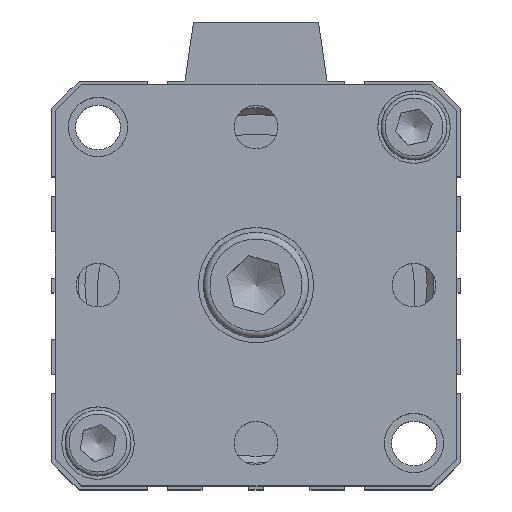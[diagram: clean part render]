
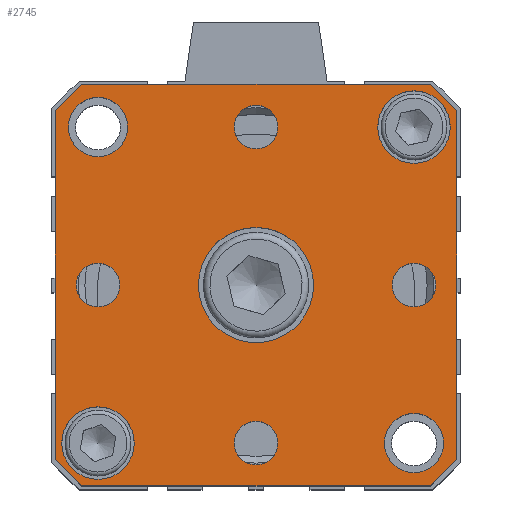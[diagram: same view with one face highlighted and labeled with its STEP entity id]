
A CAD part, top view. The second image highlights one B-rep face of the part: STEP entity #2745.
In plain terms, the highlighted planar face has unit normal (0, 0, 1).
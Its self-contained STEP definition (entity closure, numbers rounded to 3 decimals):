
#365=CARTESIAN_POINT('',(-37.557,28.294,71.6));
#366=VERTEX_POINT('',#365);
#367=CARTESIAN_POINT('',(-33.557,32.294,71.6));
#368=VERTEX_POINT('',#367);
#369=CARTESIAN_POINT('',(-37.557,28.294,71.6));
#370=DIRECTION('',(0.707,0.707,0.0));
#371=VECTOR('',#370,5.657);
#372=LINE('',#369,#371);
#373=EDGE_CURVE('',#366,#368,#372,.T.);
#417=CARTESIAN_POINT('',(19.443,32.294,71.6));
#418=VERTEX_POINT('',#417);
#419=CARTESIAN_POINT('',(-33.557,32.294,71.6));
#420=DIRECTION('',(1.0,0.0,0.0));
#421=VECTOR('',#420,53.);
#422=LINE('',#419,#421);
#423=EDGE_CURVE('',#368,#418,#422,.T.);
#440=CARTESIAN_POINT('',(23.443,28.294,71.6));
#441=VERTEX_POINT('',#440);
#442=CARTESIAN_POINT('',(19.443,32.294,71.6));
#443=DIRECTION('',(0.707,-0.707,0.0));
#444=VECTOR('',#443,5.657);
#445=LINE('',#442,#444);
#446=EDGE_CURVE('',#418,#441,#445,.T.);
#464=CARTESIAN_POINT('',(23.443,-24.706,71.6));
#465=VERTEX_POINT('',#464);
#466=CARTESIAN_POINT('',(19.443,-28.706,71.6));
#467=VERTEX_POINT('',#466);
#468=CARTESIAN_POINT('',(23.443,-24.706,71.6));
#469=DIRECTION('',(-0.707,-0.707,0.0));
#470=VECTOR('',#469,5.657);
#471=LINE('',#468,#470);
#472=EDGE_CURVE('',#465,#467,#471,.T.);
#496=CARTESIAN_POINT('',(-33.557,-28.706,71.6));
#497=VERTEX_POINT('',#496);
#498=CARTESIAN_POINT('',(19.443,-28.706,71.6));
#499=DIRECTION('',(-1.0,0.0,0.0));
#500=VECTOR('',#499,53.);
#501=LINE('',#498,#500);
#502=EDGE_CURVE('',#467,#497,#501,.T.);
#519=CARTESIAN_POINT('',(-37.557,-24.706,71.6));
#520=VERTEX_POINT('',#519);
#521=CARTESIAN_POINT('',(-33.557,-28.706,71.6));
#522=DIRECTION('',(-0.707,0.707,0.0));
#523=VECTOR('',#522,5.657);
#524=LINE('',#521,#523);
#525=EDGE_CURVE('',#497,#520,#524,.T.);
#592=CARTESIAN_POINT('',(1.693,1.794,71.6));
#593=VERTEX_POINT('',#592);
#594=CARTESIAN_POINT('',(-7.057,1.794,71.6));
#595=DIRECTION('',(0.0,0.0,-1.0));
#596=DIRECTION('',(1.0,0.0,0.0));
#597=AXIS2_PLACEMENT_3D('',#594,#595,#596);
#598=CIRCLE('',#597,8.75);
#599=EDGE_CURVE('',#593,#593,#598,.T.);
#711=CARTESIAN_POINT('',(-25.557,-22.206,71.6));
#712=VERTEX_POINT('',#711);
#713=CARTESIAN_POINT('',(-31.057,-22.206,71.6));
#714=DIRECTION('',(0.0,0.0,-1.0));
#715=DIRECTION('',(1.0,0.0,0.0));
#716=AXIS2_PLACEMENT_3D('',#713,#714,#715);
#717=CIRCLE('',#716,5.5);
#718=EDGE_CURVE('',#712,#712,#717,.T.);
#813=CARTESIAN_POINT('',(22.443,25.794,71.6));
#814=VERTEX_POINT('',#813);
#815=CARTESIAN_POINT('',(16.943,25.794,71.6));
#816=DIRECTION('',(0.0,0.0,-1.0));
#817=DIRECTION('',(1.0,0.0,0.0));
#818=AXIS2_PLACEMENT_3D('',#815,#816,#817);
#819=CIRCLE('',#818,5.5);
#820=EDGE_CURVE('',#814,#814,#819,.T.);
#890=CARTESIAN_POINT('',(20.266,1.794,71.6));
#891=VERTEX_POINT('',#890);
#892=CARTESIAN_POINT('',(16.943,1.794,71.6));
#893=DIRECTION('',(0.0,0.0,-1.0));
#894=DIRECTION('',(1.0,0.0,0.0));
#895=AXIS2_PLACEMENT_3D('',#892,#893,#894);
#896=CIRCLE('',#895,3.324);
#897=EDGE_CURVE('',#891,#891,#896,.T.);
#931=CARTESIAN_POINT('',(-3.734,-22.206,71.6));
#932=VERTEX_POINT('',#931);
#933=CARTESIAN_POINT('',(-7.057,-22.206,71.6));
#934=DIRECTION('',(0.0,0.0,-1.0));
#935=DIRECTION('',(1.0,0.0,0.0));
#936=AXIS2_PLACEMENT_3D('',#933,#934,#935);
#937=CIRCLE('',#936,3.324);
#938=EDGE_CURVE('',#932,#932,#937,.T.);
#972=CARTESIAN_POINT('',(-27.734,1.794,71.6));
#973=VERTEX_POINT('',#972);
#974=CARTESIAN_POINT('',(-31.057,1.794,71.6));
#975=DIRECTION('',(0.0,0.0,-1.0));
#976=DIRECTION('',(1.0,0.0,0.0));
#977=AXIS2_PLACEMENT_3D('',#974,#975,#976);
#978=CIRCLE('',#977,3.324);
#979=EDGE_CURVE('',#973,#973,#978,.T.);
#1013=CARTESIAN_POINT('',(-3.734,25.794,71.6));
#1014=VERTEX_POINT('',#1013);
#1015=CARTESIAN_POINT('',(-7.057,25.794,71.6));
#1016=DIRECTION('',(0.0,0.0,-1.0));
#1017=DIRECTION('',(1.0,0.0,0.0));
#1018=AXIS2_PLACEMENT_3D('',#1015,#1016,#1017);
#1019=CIRCLE('',#1018,3.324);
#1020=EDGE_CURVE('',#1014,#1014,#1019,.T.);
#2634=CARTESIAN_POINT('',(21.443,-22.206,71.6));
#2635=VERTEX_POINT('',#2634);
#2636=CARTESIAN_POINT('',(16.943,-22.206,71.6));
#2637=DIRECTION('',(0.0,0.0,-1.0));
#2638=DIRECTION('',(-1.0,0.0,0.0));
#2639=AXIS2_PLACEMENT_3D('',#2636,#2637,#2638);
#2640=CIRCLE('',#2639,4.5);
#2641=EDGE_CURVE('',#2635,#2635,#2640,.T.);
#2654=CARTESIAN_POINT('',(-26.557,25.794,71.6));
#2655=VERTEX_POINT('',#2654);
#2656=CARTESIAN_POINT('',(-31.057,25.794,71.6));
#2657=DIRECTION('',(0.0,0.0,-1.0));
#2658=DIRECTION('',(-1.0,0.0,0.0));
#2659=AXIS2_PLACEMENT_3D('',#2656,#2657,#2658);
#2660=CIRCLE('',#2659,4.5);
#2661=EDGE_CURVE('',#2655,#2655,#2660,.T.);
#2675=CARTESIAN_POINT('',(23.443,28.294,71.6));
#2676=DIRECTION('',(0.0,-1.0,0.0));
#2677=VECTOR('',#2676,53.);
#2678=LINE('',#2675,#2677);
#2679=EDGE_CURVE('',#441,#465,#2678,.T.);
#2694=CARTESIAN_POINT('',(-37.557,-24.706,71.6));
#2695=DIRECTION('',(0.0,1.0,0.0));
#2696=VECTOR('',#2695,53.);
#2697=LINE('',#2694,#2696);
#2698=EDGE_CURVE('',#520,#366,#2697,.T.);
#2703=CARTESIAN_POINT('',(-7.057,1.794,71.6));
#2704=DIRECTION('',(0.0,0.0,1.0));
#2705=DIRECTION('',(1.0,0.0,0.0));
#2706=AXIS2_PLACEMENT_3D('',#2703,#2704,#2705);
#2707=PLANE('',#2706);
#2708=ORIENTED_EDGE('',*,*,#373,.F.);
#2709=ORIENTED_EDGE('',*,*,#2698,.F.);
#2710=ORIENTED_EDGE('',*,*,#525,.F.);
#2711=ORIENTED_EDGE('',*,*,#502,.F.);
#2712=ORIENTED_EDGE('',*,*,#472,.F.);
#2713=ORIENTED_EDGE('',*,*,#2679,.F.);
#2714=ORIENTED_EDGE('',*,*,#446,.F.);
#2715=ORIENTED_EDGE('',*,*,#423,.F.);
#2716=EDGE_LOOP('',(#2708,#2709,#2710,#2711,#2712,#2713,#2714,#2715));
#2717=FACE_OUTER_BOUND('',#2716,.T.);
#2718=ORIENTED_EDGE('',*,*,#599,.T.);
#2719=EDGE_LOOP('',(#2718));
#2720=FACE_BOUND('',#2719,.T.);
#2721=ORIENTED_EDGE('',*,*,#718,.T.);
#2722=EDGE_LOOP('',(#2721));
#2723=FACE_BOUND('',#2722,.T.);
#2724=ORIENTED_EDGE('',*,*,#820,.T.);
#2725=EDGE_LOOP('',(#2724));
#2726=FACE_BOUND('',#2725,.T.);
#2727=ORIENTED_EDGE('',*,*,#897,.T.);
#2728=EDGE_LOOP('',(#2727));
#2729=FACE_BOUND('',#2728,.T.);
#2730=ORIENTED_EDGE('',*,*,#938,.T.);
#2731=EDGE_LOOP('',(#2730));
#2732=FACE_BOUND('',#2731,.T.);
#2733=ORIENTED_EDGE('',*,*,#979,.T.);
#2734=EDGE_LOOP('',(#2733));
#2735=FACE_BOUND('',#2734,.T.);
#2736=ORIENTED_EDGE('',*,*,#1020,.T.);
#2737=EDGE_LOOP('',(#2736));
#2738=FACE_BOUND('',#2737,.T.);
#2739=ORIENTED_EDGE('',*,*,#2641,.T.);
#2740=EDGE_LOOP('',(#2739));
#2741=FACE_BOUND('',#2740,.T.);
#2742=ORIENTED_EDGE('',*,*,#2661,.T.);
#2743=EDGE_LOOP('',(#2742));
#2744=FACE_BOUND('',#2743,.T.);
#2745=ADVANCED_FACE('',(#2717,#2720,#2723,#2726,#2729,#2732,#2735,#2738,#2741,#2744),#2707,.T.);
